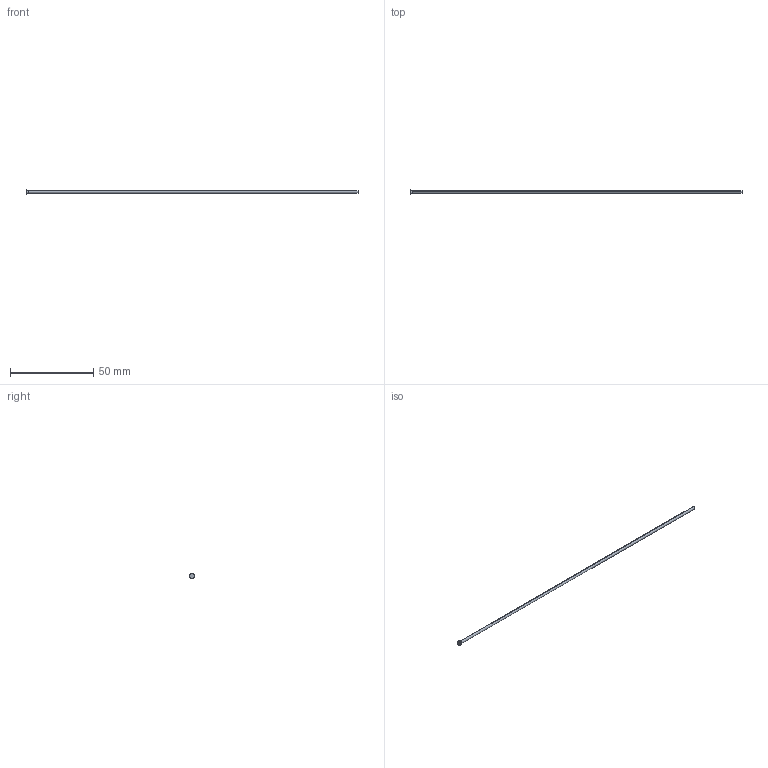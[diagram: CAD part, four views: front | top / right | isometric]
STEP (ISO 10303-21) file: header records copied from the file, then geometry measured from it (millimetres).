
FILE_DESCRIPTION (( 'STEP AP214' ), '1' );
FILE_NAME ('D-1,75x200.STEP', '2020-06-08T09:48:36', ( 'August' ), ( '' ), 'SwSTEP 2.0', 'SolidWorks 2018', '' );
FILE_SCHEMA (( 'AUTOMOTIVE_DESIGN' ));
Length unit declared in the file: millimetre
Products named in the file (1): D-1,75x200
Bounding box: 200 x 2.8 x 2.8 mm (x, y, z)
Volume: 484.5 mm3; surface area: 1112.2 mm2
Topology: 1 solids, 1 shells, 10 faces, 18 edges, 10 vertices
Faces by surface type: cylinder 4, torus 2, cone 2, plane 2
Entity records: 280 total; most frequent: DIRECTION 52, CARTESIAN_POINT 39, ORIENTED_EDGE 36, AXIS2_PLACEMENT_3D 23, EDGE_CURVE 18, CIRCLE 12, FACE_OUTER_BOUND 10, VERTEX_POINT 10
